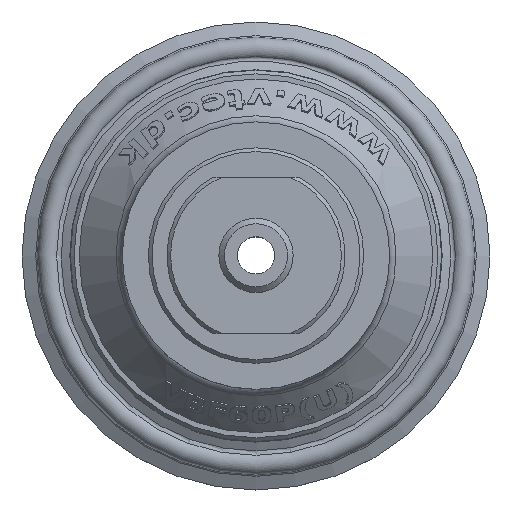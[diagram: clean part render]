
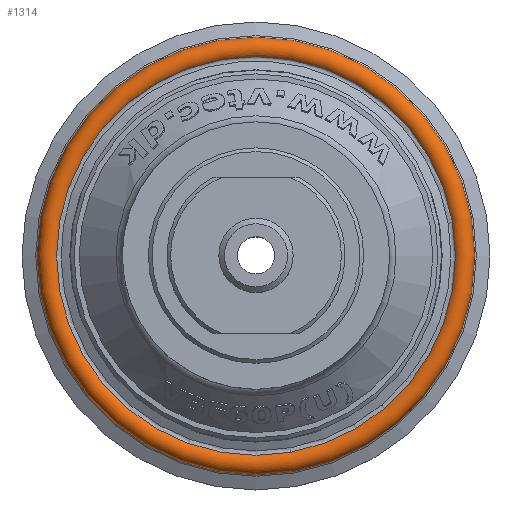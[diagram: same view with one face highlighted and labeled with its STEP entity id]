
A CAD part, top view. The second image highlights one B-rep face of the part: STEP entity #1314.
In plain terms, the highlighted toroidal (fillet/blend) face has major radius 27.948 mm and minor radius 1.5 mm.
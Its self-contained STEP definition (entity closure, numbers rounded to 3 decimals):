
#1314 = ADVANCED_FACE( '', ( #2857, #2858 ), #2859, .T. );
#2857 = FACE_OUTER_BOUND( '', #9010, .T. );
#2858 = FACE_OUTER_BOUND( '', #9011, .T. );
#2859 = TOROIDAL_SURFACE( '', #9012, 27.948, 1.5 );
#9010 = EDGE_LOOP( '', ( #13241 ) );
#9011 = EDGE_LOOP( '', ( #13242 ) );
#9012 = AXIS2_PLACEMENT_3D( '', #13243, #13244, #13245 );
#13241 = ORIENTED_EDGE( '', *, *, #15793, .T. );
#13242 = ORIENTED_EDGE( '', *, *, #15193, .F. );
#13243 = CARTESIAN_POINT( '', ( 0., 0., -18.984 ) );
#13244 = DIRECTION( '', ( 0., 0., 1. ) );
#13245 = DIRECTION( '', ( 1., 0., 0. ) );
#15193 = EDGE_CURVE( '', #17568, #17568, #17569, .T. );
#15793 = EDGE_CURVE( '', #18371, #18371, #18372, .T. );
#17568 = VERTEX_POINT( '', #24224 );
#17569 = CIRCLE( '', #24225, 26.842 );
#18371 = VERTEX_POINT( '', #27337 );
#18372 = CIRCLE( '', #27338, 29.407 );
#24224 = CARTESIAN_POINT( '', ( 26.842, 0., -17.971 ) );
#24225 = AXIS2_PLACEMENT_3D( '', #28146, #28147, #28148 );
#27337 = CARTESIAN_POINT( '', ( 29.407, 0., -19.335 ) );
#27338 = AXIS2_PLACEMENT_3D( '', #28291, #28292, #28293 );
#28146 = CARTESIAN_POINT( '', ( 0., 0., -17.971 ) );
#28147 = DIRECTION( '', ( 0., 0., 1. ) );
#28148 = DIRECTION( '', ( 1., 0., 0. ) );
#28291 = CARTESIAN_POINT( '', ( 0., 0., -19.335 ) );
#28292 = DIRECTION( '', ( 0., 0., 1. ) );
#28293 = DIRECTION( '', ( 1., 0., 0. ) );
